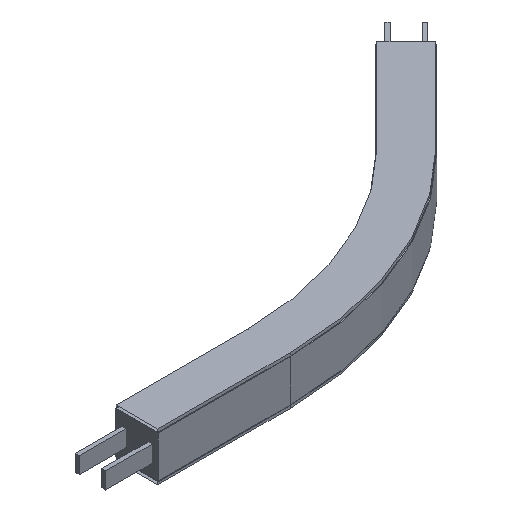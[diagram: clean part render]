
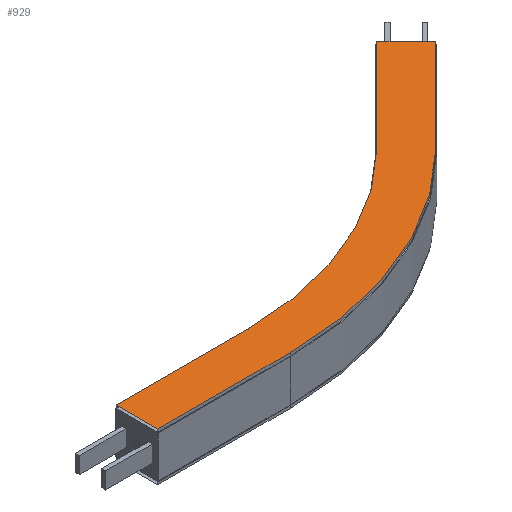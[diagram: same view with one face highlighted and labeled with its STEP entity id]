
A CAD part, isometric view. The second image highlights one B-rep face of the part: STEP entity #929.
In plain terms, the highlighted planar face has unit normal (0, 0, -1).
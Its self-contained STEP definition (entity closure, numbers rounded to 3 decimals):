
#61=CIRCLE('',#1011,468.5);
#62=CIRCLE('',#1013,531.5);
#119=FACE_OUTER_BOUND('',#171,.T.);
#171=EDGE_LOOP('',(#794,#795,#796,#797,#798,#799,#800,#801));
#253=LINE('',#1463,#363);
#255=LINE('',#1469,#365);
#262=LINE('',#1490,#372);
#267=LINE('',#1499,#377);
#268=LINE('',#1501,#378);
#269=LINE('',#1502,#379);
#363=VECTOR('',#1198,10.);
#365=VECTOR('',#1202,10.);
#372=VECTOR('',#1223,10.);
#377=VECTOR('',#1232,10.);
#378=VECTOR('',#1235,10.);
#379=VECTOR('',#1236,10.);
#453=VERTEX_POINT('',#1457);
#455=VERTEX_POINT('',#1461);
#456=VERTEX_POINT('',#1465);
#458=VERTEX_POINT('',#1468);
#461=VERTEX_POINT('',#1475);
#462=VERTEX_POINT('',#1480);
#464=VERTEX_POINT('',#1486);
#467=VERTEX_POINT('',#1497);
#565=EDGE_CURVE('',#453,#455,#253,.T.);
#567=EDGE_CURVE('',#456,#458,#255,.T.);
#572=EDGE_CURVE('',#461,#453,#61,.T.);
#574=EDGE_CURVE('',#462,#456,#62,.T.);
#578=EDGE_CURVE('',#464,#461,#262,.T.);
#583=EDGE_CURVE('',#467,#462,#267,.T.);
#584=EDGE_CURVE('',#467,#464,#268,.T.);
#585=EDGE_CURVE('',#455,#458,#269,.T.);
#794=ORIENTED_EDGE('',*,*,#584,.T.);
#795=ORIENTED_EDGE('',*,*,#578,.T.);
#796=ORIENTED_EDGE('',*,*,#572,.T.);
#797=ORIENTED_EDGE('',*,*,#565,.T.);
#798=ORIENTED_EDGE('',*,*,#585,.T.);
#799=ORIENTED_EDGE('',*,*,#567,.F.);
#800=ORIENTED_EDGE('',*,*,#574,.F.);
#801=ORIENTED_EDGE('',*,*,#583,.F.);
#879=PLANE('',#1018);
#929=ADVANCED_FACE('',(#119),#879,.F.);
#1011=AXIS2_PLACEMENT_3D('',#1478,#1210,#1211);
#1013=AXIS2_PLACEMENT_3D('',#1483,#1215,#1216);
#1018=AXIS2_PLACEMENT_3D('',#1500,#1233,#1234);
#1198=DIRECTION('',(0.707,0.707,0.));
#1202=DIRECTION('',(0.707,0.707,0.));
#1210=DIRECTION('center_axis',(0.,0.,
1.));
#1211=DIRECTION('ref_axis',(0.,-1.,0.));
#1215=DIRECTION('center_axis',(0.,0.,
1.));
#1216=DIRECTION('ref_axis',(0.,-1.,0.));
#1223=DIRECTION('',(1.,0.,0.));
#1232=DIRECTION('',(1.,0.,0.));
#1233=DIRECTION('center_axis',(0.,0.,1.));
#1234=DIRECTION('ref_axis',(0.,-1.,0.));
#1235=DIRECTION('',(0.,1.,0.));
#1236=DIRECTION('',(0.707,-0.707,0.));
#1457=CARTESIAN_POINT('',(531.28,168.72,36.5));
#1461=CARTESIAN_POINT('',(672.701,310.142,36.5));
#1463=CARTESIAN_POINT('',(531.28,168.72,36.5));
#1465=CARTESIAN_POINT('',(575.827,124.173,36.5));
#1468=CARTESIAN_POINT('',(717.249,265.594,36.5));
#1469=CARTESIAN_POINT('',(575.827,124.173,36.5));
#1475=CARTESIAN_POINT('',(200.,31.5,36.5));
#1478=CARTESIAN_POINT('Origin',(200.,500.,36.5));
#1480=CARTESIAN_POINT('',(200.,-31.5,36.5));
#1483=CARTESIAN_POINT('Origin',(200.,500.,36.5));
#1486=CARTESIAN_POINT('',(0.,31.5,36.5));
#1490=CARTESIAN_POINT('',(0.,31.5,36.5));
#1497=CARTESIAN_POINT('',(0.,-31.5,36.5));
#1499=CARTESIAN_POINT('',(0.,-31.5,36.5));
#1500=CARTESIAN_POINT('Origin',(0.,31.5,36.5));
#1501=CARTESIAN_POINT('',(0.,-31.5,36.5));
#1502=CARTESIAN_POINT('',(717.249,265.594,36.5));
